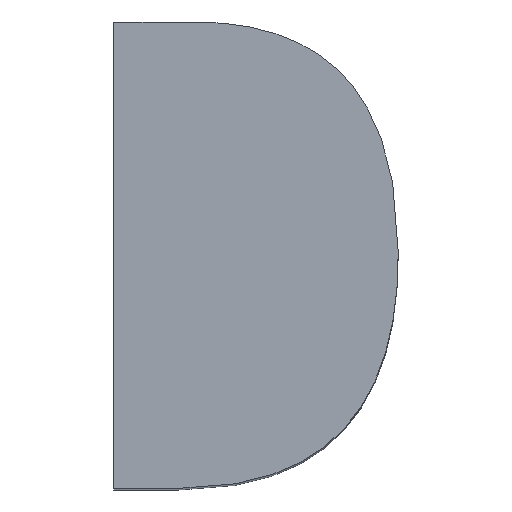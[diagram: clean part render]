
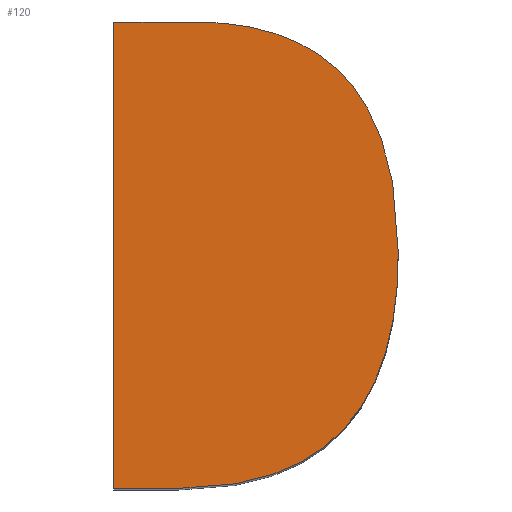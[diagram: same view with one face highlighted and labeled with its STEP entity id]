
A CAD part, top view. The second image highlights one B-rep face of the part: STEP entity #120.
In plain terms, the highlighted planar face has unit normal (0, 0, 1).
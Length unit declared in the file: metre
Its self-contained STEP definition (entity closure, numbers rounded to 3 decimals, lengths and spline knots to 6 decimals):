
#18=LINE('',#181,#29);
#21=LINE('',#187,#32);
#23=LINE('',#191,#34);
#29=VECTOR('',#149,1.);
#32=VECTOR('',#154,1.);
#34=VECTOR('',#158,1.);
#61=ORIENTED_EDGE('',*,*,#79,.T.);
#62=ORIENTED_EDGE('',*,*,#80,.T.);
#63=ORIENTED_EDGE('',*,*,#72,.T.);
#64=ORIENTED_EDGE('',*,*,#75,.T.);
#65=ORIENTED_EDGE('',*,*,#77,.T.);
#72=EDGE_CURVE('',#87,#86,#18,.T.);
#75=EDGE_CURVE('',#86,#88,#21,.T.);
#77=EDGE_CURVE('',#88,#89,#23,.T.);
#79=EDGE_CURVE('',#89,#90,#93,.T.);
#80=EDGE_CURVE('',#90,#87,#94,.T.);
#86=VERTEX_POINT('',#180);
#87=VERTEX_POINT('',#182);
#88=VERTEX_POINT('',#186);
#89=VERTEX_POINT('',#190);
#90=VERTEX_POINT('',#201);
#93=B_SPLINE_CURVE_WITH_KNOTS('',2,(#202,#203,#204),.UNSPECIFIED.,.F.,.F.,(3,3),(0.,1.),.PIECEWISE_BEZIER_KNOTS.);
#94=B_SPLINE_CURVE_WITH_KNOTS('',2,(#213,#214,#215),.UNSPECIFIED.,.F.,.F.,(3,3),(0.,1.),.PIECEWISE_BEZIER_KNOTS.);
#101=EDGE_LOOP('',(#61,#62,#63,#64,#65));
#108=FACE_BOUND('',#101,.T.);
#113=PLANE('',#138);
#120=ADVANCED_FACE('',(#108),#113,.T.);
#138=AXIS2_PLACEMENT_3D('',#216,#160,#161);
#149=DIRECTION('',(-1.,0.,0.));
#154=DIRECTION('',(0.,-1.,0.));
#158=DIRECTION('',(1.,0.,0.));
#160=DIRECTION('',(0.,0.,1.));
#161=DIRECTION('',(1.,0.,0.));
#180=CARTESIAN_POINT('',(0.019517,0.063349,0.0015));
#181=CARTESIAN_POINT('',(0.019582,0.063349,0.0015));
#182=CARTESIAN_POINT('',(0.019647,0.063349,0.0015));
#186=CARTESIAN_POINT('',(0.019517,0.062598,0.0015));
#187=CARTESIAN_POINT('',(0.019517,0.062973,0.0015));
#190=CARTESIAN_POINT('',(0.019622,0.062598,0.0015));
#191=CARTESIAN_POINT('',(0.019569,0.062598,0.0015));
#201=CARTESIAN_POINT('',(0.019975,0.062977,0.0015));
#202=CARTESIAN_POINT('',(0.019622,0.062598,0.0015));
#203=CARTESIAN_POINT('',(0.019975,0.062598,0.0015));
#204=CARTESIAN_POINT('',(0.019975,0.062977,0.0015));
#213=CARTESIAN_POINT('',(0.019975,0.062977,0.0015));
#214=CARTESIAN_POINT('',(0.019975,0.063349,0.0015));
#215=CARTESIAN_POINT('',(0.019647,0.063349,0.0015));
#216=CARTESIAN_POINT('',(-0.014086,0.020475,0.0015));
